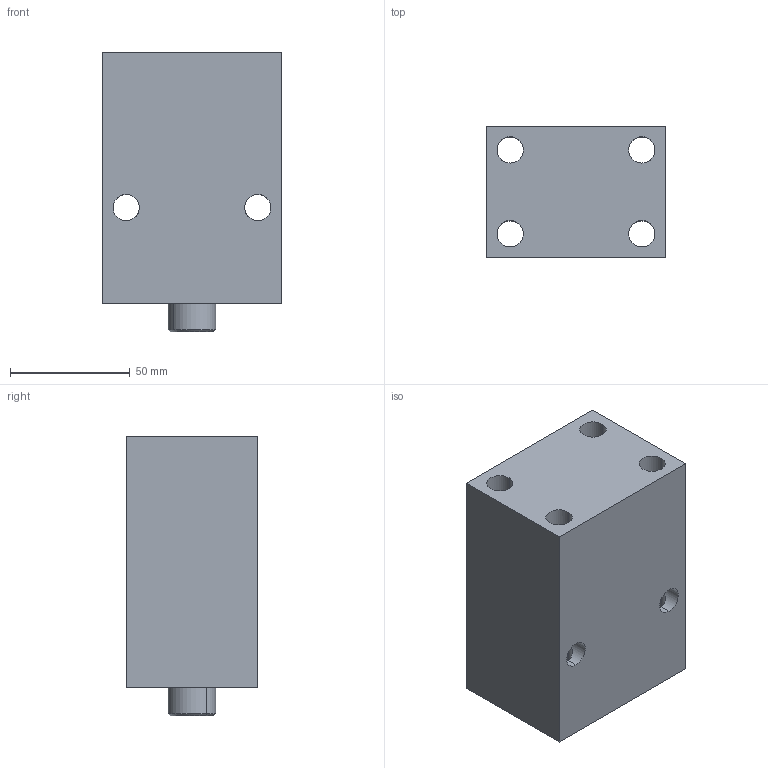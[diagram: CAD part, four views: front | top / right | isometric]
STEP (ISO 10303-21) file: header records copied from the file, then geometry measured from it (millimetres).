
FILE_DESCRIPTION (( 'STEP AP203' ), '1' );
FILE_NAME ('Block cylinder_B01C-250F.STEP', '2022-07-09T18:28:13', ( '' ), ( '' ), 'SwSTEP 2.0', 'SolidWorks 2017', '' );
FILE_SCHEMA (( 'CONFIG_CONTROL_DESIGN' ));
Length unit declared in the file: millimetre
Products named in the file (3): Body_250F_50ST; Piston_250F_50sT; Block cylinder_B01C-250F
Assembly tree (2 placements, depth 2):
  Block cylinder_B01C-250F
    Body_250F_50ST
    Piston_250F_50sT
Bounding box: 75 x 55 x 117 mm (x, y, z)
Volume: 384355.6 mm3; surface area: 61372.9 mm2
Topology: 2 solids, 2 shells, 342 faces, 934 edges, 609 vertices
Faces by surface type: bspline 155, plane 135, cylinder 44, cone 8
Entity records: 17365 total; most frequent: CARTESIAN_POINT 9527, ORIENTED_EDGE 1856, DIRECTION 1028, EDGE_CURVE 928, VERTEX_POINT 609, LINE 528, VECTOR 528, EDGE_LOOP 381
